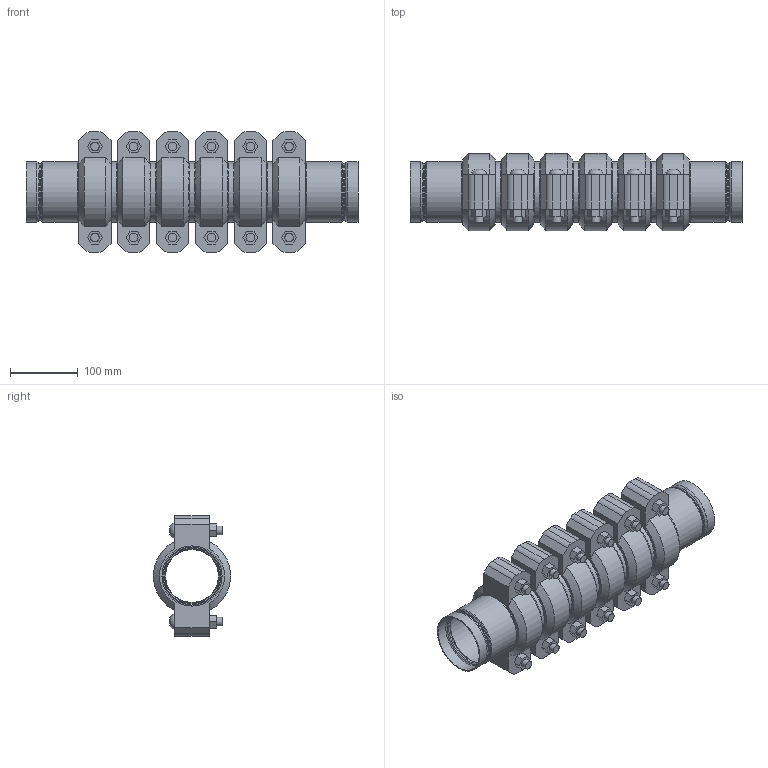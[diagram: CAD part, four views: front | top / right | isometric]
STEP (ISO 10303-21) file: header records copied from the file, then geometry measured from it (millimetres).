
FILE_DESCRIPTION(/* description */ ('VIC STRENGTHIN 100 EXPANSION JOINT 6 COUPLINGS COMPRESSED STYLE E155 (ST1)','CAx-IF Rec.Pracs.---Representation and Presentation of Product Manufacturing Information (PMI)---4.0---2014-10-13'),/* implementation_level */ '2;1');
FILE_NAME(/* name */ 'C:\Users\Vjadhav\AppData\Roaming\Autodesk\ApplicationPlugins\Victaulic.Temp\A634\Victaulic_SS-StrengThin 100_Expansion Joint_Compressed_6 Couplings_Style E155 (ST1)_3 (80).stp',/* time_stamp */ '2021-07-23T12:33:42+05:00',/* author */ ('kkamble'),/* organization */ ('Victaulic'),/* preprocessor_version */ 'ST-DEVELOPER v17.2',/* originating_system */ 'Autodesk Inventor 2019',/* authorisation */ '');
FILE_SCHEMA (('AP242_MANAGED_MODEL_BASED_3D_ENGINEERING_MIM_LF { 1 0 10303 442 1 1 4 }'));
Length unit declared in the file: inch
Products named in the file (4): E155-03.0; E494G-03.0; Nipple-03.0; 075-03.0
Assembly tree (13 placements, depth 2):
  E155-03.0
    E494G-03.0  x2
    Nipple-03.0  x5
    075-03.0  x6
Bounding box: 490.47 x 113.88 x 177.8 mm (x, y, z)
Volume: 2450950.9 mm3; surface area: 647763.2 mm2
Topology: 13 solids, 25 shells, 446 faces, 1134 edges, 802 vertices
Faces by surface type: plane 246, cylinder 128, torus 32, cone 28, bspline 12
Full cylindrical faces by diameter (mm): 12.7 x24, 14.605 x12, 77.927 x5, 79.985 x2, 81.737 x2, 83.185 x2, 84.938 x12, 85.7 x6, 88.9 x27
Entity records: 3663 total; most frequent: DIRECTION 651, CARTESIAN_POINT 645, ORIENTED_EDGE 536, AXIS2_PLACEMENT_3D 277, EDGE_CURVE 268, VERTEX_POINT 193, CIRCLE 163, EDGE_LOOP 123
